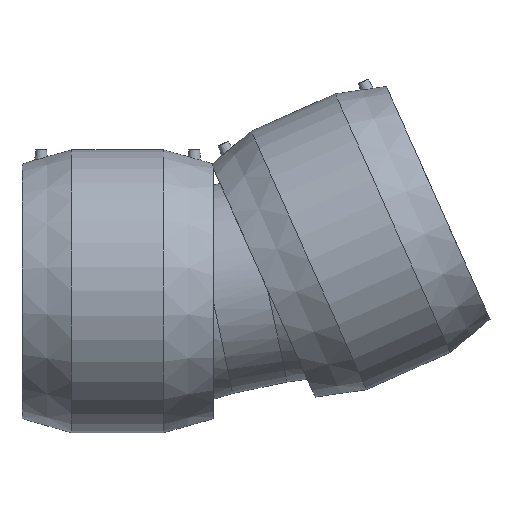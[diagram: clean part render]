
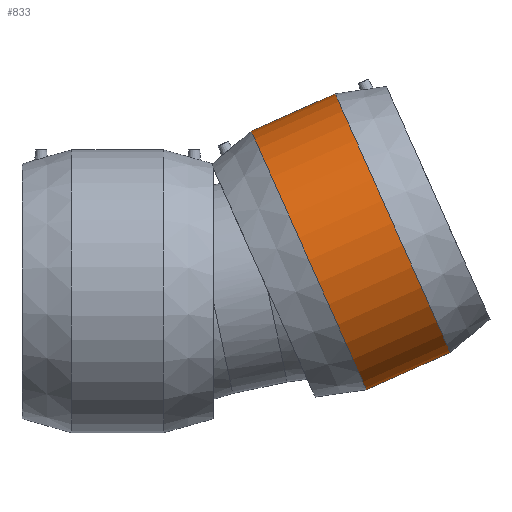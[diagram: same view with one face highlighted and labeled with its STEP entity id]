
A CAD part, top view. The second image highlights one B-rep face of the part: STEP entity #833.
In plain terms, the highlighted cylindrical face has radius 193.04 mm (diameter 386.08 mm), a full revolution.
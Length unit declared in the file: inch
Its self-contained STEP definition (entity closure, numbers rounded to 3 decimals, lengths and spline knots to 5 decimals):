
#56=LINE('',#1728,#85);
#85=VECTOR('',#1143,7.6);
#111=CYLINDRICAL_SURFACE('',#941,7.6);
#162=FACE_OUTER_BOUND('',#219,.T.);
#219=EDGE_LOOP('',(#669,#670,#671,#672,#673,#674));
#312=CIRCLE('',#935,7.6);
#313=CIRCLE('',#936,7.6);
#316=CIRCLE('',#942,7.6);
#317=CIRCLE('',#943,7.6);
#396=VERTEX_POINT('',#1677);
#397=VERTEX_POINT('',#1679);
#401=VERTEX_POINT('',#1727);
#402=VERTEX_POINT('',#1729);
#497=EDGE_CURVE('',#397,#396,#312,.T.);
#498=EDGE_CURVE('',#396,#397,#313,.T.);
#504=EDGE_CURVE('',#396,#401,#56,.T.);
#505=EDGE_CURVE('',#402,#401,#316,.T.);
#506=EDGE_CURVE('',#401,#402,#317,.T.);
#669=ORIENTED_EDGE('',*,*,#497,.T.);
#670=ORIENTED_EDGE('',*,*,#504,.T.);
#671=ORIENTED_EDGE('',*,*,#505,.F.);
#672=ORIENTED_EDGE('',*,*,#506,.F.);
#673=ORIENTED_EDGE('',*,*,#504,.F.);
#674=ORIENTED_EDGE('',*,*,#498,.T.);
#833=ADVANCED_FACE('',(#162),#111,.T.);
#935=AXIS2_PLACEMENT_3D('',#1680,#1128,#1129);
#936=AXIS2_PLACEMENT_3D('',#1681,#1130,#1131);
#941=AXIS2_PLACEMENT_3D('',#1726,#1141,#1142);
#942=AXIS2_PLACEMENT_3D('',#1730,#1144,#1145);
#943=AXIS2_PLACEMENT_3D('',#1731,#1146,#1147);
#1128=DIRECTION('center_axis',(0.914,0.407,0.));
#1129=DIRECTION('ref_axis',(0.,0.,-1.));
#1130=DIRECTION('center_axis',(0.914,0.407,0.));
#1131=DIRECTION('ref_axis',(0.,0.,-1.));
#1141=DIRECTION('center_axis',(0.914,0.407,0.));
#1142=DIRECTION('ref_axis',(-0.407,0.914,0.));
#1143=DIRECTION('',(0.914,0.407,0.));
#1144=DIRECTION('center_axis',(0.914,0.407,0.));
#1145=DIRECTION('ref_axis',(0.,0.,-1.));
#1146=DIRECTION('center_axis',(0.914,0.407,0.));
#1147=DIRECTION('ref_axis',(0.,0.,-1.));
#1677=CARTESIAN_POINT('',(13.36,-5.2842,0.));
#1679=CARTESIAN_POINT('',(7.1776,8.60169,0.));
#1680=CARTESIAN_POINT('Origin',(10.2688,1.65875,0.));
#1681=CARTESIAN_POINT('Origin',(10.2688,1.65875,0.));
#1726=CARTESIAN_POINT('Origin',(12.52069,2.66136,0.));
#1727=CARTESIAN_POINT('',(17.86378,-3.27898,0.));
#1728=CARTESIAN_POINT('',(15.61189,-4.28159,0.));
#1729=CARTESIAN_POINT('',(11.68138,10.60691,0.));
#1730=CARTESIAN_POINT('Origin',(14.77258,3.66396,0.));
#1731=CARTESIAN_POINT('Origin',(14.77258,3.66396,0.));
